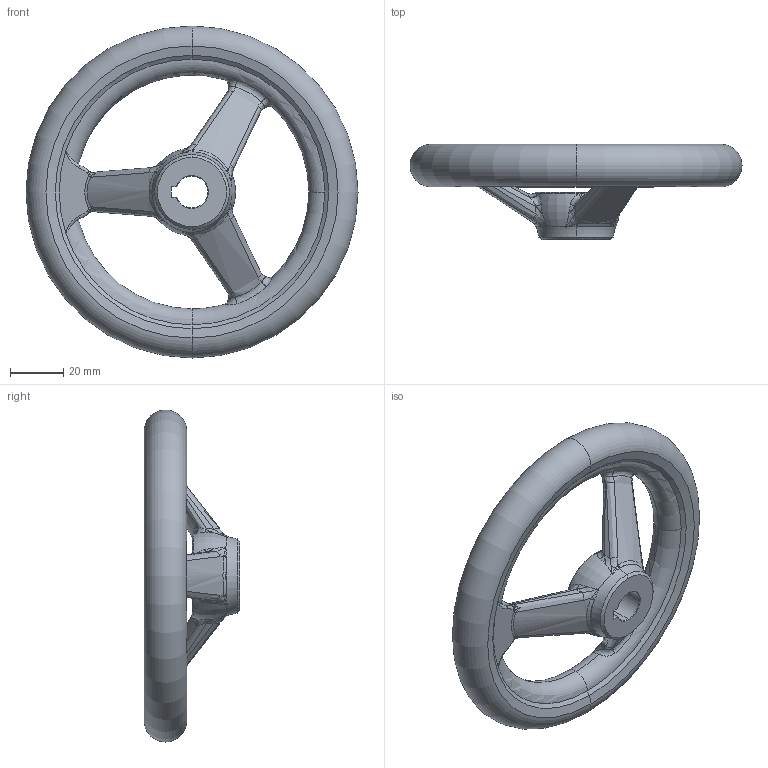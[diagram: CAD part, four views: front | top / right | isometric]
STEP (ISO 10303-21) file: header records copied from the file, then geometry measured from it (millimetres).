
FILE_DESCRIPTION (( 'STEP AP203' ), '1' );
FILE_NAME ('din950_a3_125x12.step', '2015-02-02T09:38:52', ( 'Magnus' ), ( 'Microsoft' ), 'SwSTEP 2.0', 'SolidWorks 2014', '' );
FILE_SCHEMA (( 'CONFIG_CONTROL_DESIGN' ));
Length unit declared in the file: millimetre
Products named in the file (1): din950_a3_125x12
Bounding box: 125 x 36 x 125 mm (x, y, z)
Volume: 97890.6 mm3; surface area: 25188.6 mm2
Topology: 1 solids, 1 shells, 203 faces, 496 edges, 271 vertices
Faces by surface type: bspline 138, torus 28, cone 18, plane 13, cylinder 6
Entity records: 10480 total; most frequent: CARTESIAN_POINT 6738, ORIENTED_EDGE 956, DIRECTION 522, EDGE_CURVE 478, VERTEX_POINT 271, B_SPLINE_CURVE_WITH_KNOTS 264, AXIS2_PLACEMENT_3D 246, EDGE_LOOP 205
